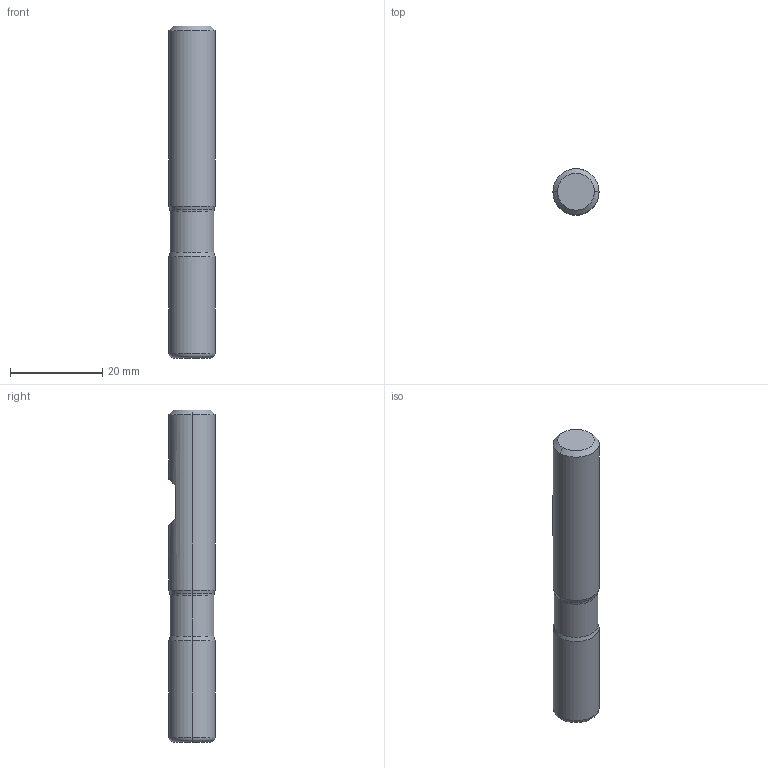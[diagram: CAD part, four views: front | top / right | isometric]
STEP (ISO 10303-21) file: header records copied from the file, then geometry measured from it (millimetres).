
FILE_DESCRIPTION (( 'STEP AP214' ), '1' );
FILE_NAME ('1.393.102.10_3D-model.step', '2022-02-15T17:19:32', ( '' ), ( '' ), 'SwSTEP 2.0', 'SolidWorks 2020', '' );
FILE_SCHEMA (( 'AUTOMOTIVE_DESIGN' ));
Length unit declared in the file: millimetre
Products named in the file (3): CUT-3D^Baugr111; NOCUT-3D^Baugr111; 1.393.102.10_3D-model
Assembly tree (2 placements, depth 2):
  1.393.102.10_3D-model
    CUT-3D^Baugr111
    NOCUT-3D^Baugr111
Bounding box: 10 x 10 x 72 mm (x, y, z)
Volume: 5496.5 mm3; surface area: 2528.2 mm2
Topology: 2 solids, 2 shells, 23 faces, 42 edges, 24 vertices
Faces by surface type: plane 7, cylinder 6, cone 6, torus 4
Entity records: 686 total; most frequent: DIRECTION 126, CARTESIAN_POINT 103, ORIENTED_EDGE 84, AXIS2_PLACEMENT_3D 55, EDGE_CURVE 42, CIRCLE 24, VERTEX_POINT 24, EDGE_LOOP 24
